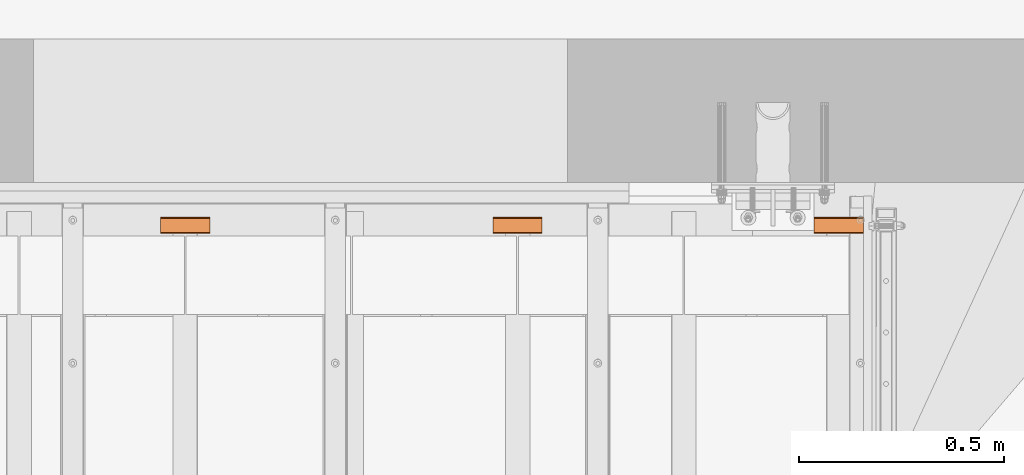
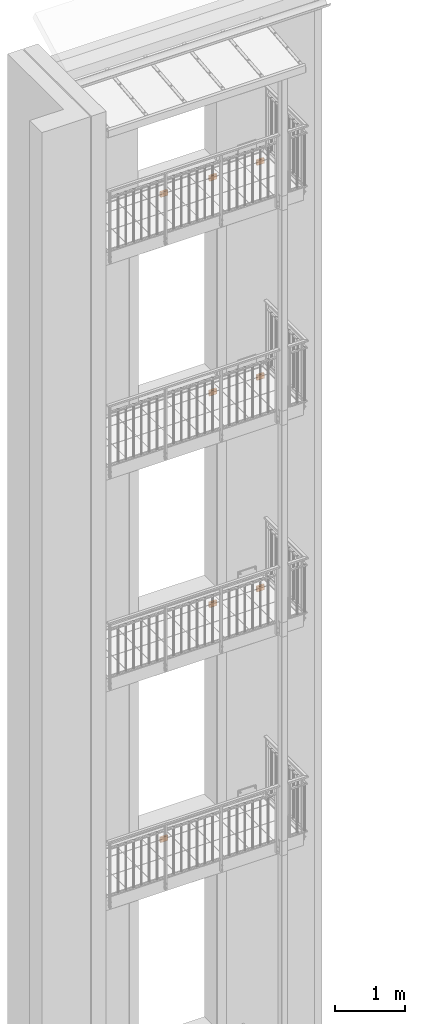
# One storey, part 97 of 162: 8 proxies.
"""IFC2X3 building model written with IfcOpenShell, lengths in millimetres."""

from ifc_helpers import new_model, entity, si_unit, converted_unit, origin_with_axes, place, context, project, spatial, faceted_brep, material, element, save


model = new_model("IFC2X3")

# Units and contexts
model_context = context("Model", 3, precision=1e-09, world=origin_with_axes())
ifc_project = project(units=[si_unit("LENGTHUNIT", "METRE", prefix="MILLI"), si_unit("AREAUNIT", "SQUARE_METRE"), si_unit("VOLUMEUNIT", "CUBIC_METRE"), converted_unit("PLANEANGLEUNIT", "DEGREE", entity("IfcPlaneAngleMeasure", 0.01745329), si_unit("PLANEANGLEUNIT", "RADIAN"), dimensions=[0, 0, 0, 0, 0, 0, 0])], contexts=[model_context])

# Site, building, storey
site_placement = place(None, origin_with_axes())
site = spatial("IfcSite", under=ifc_project, at=site_placement, Name="Hermannstra?e 1a, 60318 Frankfurt", CompositionType="ELEMENT")
building_placement = place(site_placement, origin_with_axes())
building = spatial("IfcBuilding", under=site, at=building_placement, Name="Struktur 1", CompositionType="ELEMENT")
storey_placement = place(building_placement, origin_with_axes())
storey = spatial("IfcBuildingStorey", under=building, at=storey_placement, Name="Default Storey", CompositionType="ELEMENT", Elevation=0.0)

# Proxies
ifc_material = material(Name="Alu")
proxy_1_placement = place(None, origin_with_axes())
element("IfcBuildingElementProxy", 1, at=proxy_1_placement, inside=storey, material=ifc_material, ObjectType="-", context=model_context, shape_type="Brep", body=[
    faceted_brep([(5011.55936482, 2612.413221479, 7558.0), (5011.55936482, 2614.609373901, 7555.803847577), (5011.55936482, 2617.609373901, 7555.0), (5011.55936482, 2645.609373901, 7555.0), (5011.55936482, 2648.609373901, 7555.803847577), (5011.55936482, 2650.805526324, 7558.0), (5011.55936482, 2651.609373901, 7561.0), (5011.55936482, 2651.609373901, 7639.0), (5011.55936482, 2650.805526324, 7642.0), (5011.55936482, 2648.609373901, 7644.196152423), (5011.55936482, 2645.609373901, 7645.0), (5011.55936482, 2617.609373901, 7645.0), (5011.55936482, 2614.609373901, 7644.196152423), (5011.55936482, 2612.413221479, 7642.0), (5011.55936482, 2611.609373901, 7639.0), (5011.55936482, 2611.609373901, 7561.0), (5011.55936482, 2614.609373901, 7561.0), (5011.55936482, 2614.609373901, 7639.0), (5011.55936482, 2615.01129769, 7640.5), (5011.55936482, 2616.109373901, 7641.598076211), (5011.55936482, 2617.609373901, 7642.0), (5011.55936482, 2645.609373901, 7642.0), (5011.55936482, 2647.109373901, 7641.598076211), (5011.55936482, 2648.207450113, 7640.5), (5011.55936482, 2648.609373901, 7639.0), (5011.55936482, 2648.609373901, 7561.0), (5011.55936482, 2648.207450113, 7559.5), (5011.55936482, 2647.109373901, 7558.401923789), (5011.55936482, 2645.609373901, 7558.0), (5011.55936482, 2617.609373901, 7558.0), (5011.55936482, 2616.109373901, 7558.401923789), (5011.55936482, 2615.01129769, 7559.5), (4891.55936482, 2614.609373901, 7561.0), (4891.55936482, 2615.01129769, 7559.5), (4891.55936482, 2611.609373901, 7561.0), (4891.55936482, 2612.413221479, 7558.0), (4891.55936482, 2611.609373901, 7639.0), (4891.55936482, 2612.413221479, 7642.0), (4891.55936482, 2614.609373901, 7644.196152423), (4891.55936482, 2617.609373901, 7645.0), (4891.55936482, 2645.609373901, 7645.0), (4891.55936482, 2648.609373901, 7644.196152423), (4891.55936482, 2650.805526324, 7642.0), (4891.55936482, 2651.609373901, 7639.0), (4891.55936482, 2651.609373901, 7561.0), (4891.55936482, 2650.805526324, 7558.0), (4891.55936482, 2648.609373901, 7555.803847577), (4891.55936482, 2645.609373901, 7555.0), (4891.55936482, 2617.609373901, 7555.0), (4891.55936482, 2614.609373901, 7555.803847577), (4891.55936482, 2614.609373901, 7639.0), (4891.55936482, 2616.109373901, 7558.401923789), (4891.55936482, 2617.609373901, 7558.0), (4891.55936482, 2645.609373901, 7558.0), (4891.55936482, 2647.109373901, 7558.401923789), (4891.55936482, 2648.207450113, 7559.5), (4891.55936482, 2648.609373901, 7561.0), (4891.55936482, 2648.609373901, 7639.0), (4891.55936482, 2648.207450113, 7640.5), (4891.55936482, 2647.109373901, 7641.598076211), (4891.55936482, 2645.609373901, 7642.0), (4891.55936482, 2617.609373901, 7642.0), (4891.55936482, 2616.109373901, 7641.598076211), (4891.55936482, 2615.01129769, 7640.5)], [[[0, 1, 2, 3, 4, 5, 6, 7, 8, 9, 10, 11, 12, 13, 14, 15], [16, 17, 18, 19, 20, 21, 22, 23, 24, 25, 26, 27, 28, 29, 30, 31]], [[32, 16, 31, 33]], [[15, 34, 35, 0]], [[36, 37, 38, 39, 40, 41, 42, 43, 44, 45, 46, 47, 48, 49, 35, 34], [50, 32, 33, 51, 52, 53, 54, 55, 56, 57, 58, 59, 60, 61, 62, 63]], [[17, 16, 32, 50]], [[36, 34, 15, 14]], [[36, 14, 13, 37]], [[33, 31, 30, 51]], [[0, 35, 49, 1]], [[17, 50, 63, 18]], [[37, 13, 12, 38]], [[51, 30, 29, 52]], [[1, 49, 48, 2]], [[18, 63, 62, 19]], [[38, 12, 11, 39]], [[53, 52, 29, 28]], [[3, 2, 48, 47]], [[19, 62, 61, 20]], [[40, 39, 11, 10]], [[21, 20, 61, 60]], [[53, 28, 27, 54]], [[3, 47, 46, 4]], [[40, 10, 9, 41]], [[21, 60, 59, 22]], [[54, 27, 26, 55]], [[4, 46, 45, 5]], [[44, 6, 5, 45]], [[41, 9, 8, 42]], [[22, 59, 58, 23]], [[55, 26, 25, 56]], [[7, 6, 44, 43]], [[57, 24, 23, 58]], [[25, 24, 57, 56]], [[42, 8, 7, 43]]]),
])
proxy_2_placement = place(None, origin_with_axes())
element("IfcBuildingElementProxy", 2, at=proxy_2_placement, inside=storey, material=ifc_material, ObjectType="-", context=model_context, shape_type="Brep", body=[
    faceted_brep([(5793.30936482, 2612.413221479, 7558.0), (5793.30936482, 2614.609373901, 7555.803847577), (5793.30936482, 2617.609373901, 7555.0), (5793.30936482, 2645.609373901, 7555.0), (5793.30936482, 2648.609373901, 7555.803847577), (5793.30936482, 2650.805526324, 7558.0), (5793.30936482, 2651.609373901, 7561.0), (5793.30936482, 2651.609373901, 7639.0), (5793.30936482, 2650.805526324, 7642.0), (5793.30936482, 2648.609373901, 7644.196152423), (5793.30936482, 2645.609373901, 7645.0), (5793.30936482, 2617.609373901, 7645.0), (5793.30936482, 2614.609373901, 7644.196152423), (5793.30936482, 2612.413221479, 7642.0), (5793.30936482, 2611.609373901, 7639.0), (5793.30936482, 2611.609373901, 7561.0), (5793.30936482, 2614.609373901, 7561.0), (5793.30936482, 2614.609373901, 7639.0), (5793.30936482, 2615.01129769, 7640.5), (5793.30936482, 2616.109373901, 7641.598076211), (5793.30936482, 2617.609373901, 7642.0), (5793.30936482, 2645.609373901, 7642.0), (5793.30936482, 2647.109373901, 7641.598076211), (5793.30936482, 2648.207450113, 7640.5), (5793.30936482, 2648.609373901, 7639.0), (5793.30936482, 2648.609373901, 7561.0), (5793.30936482, 2648.207450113, 7559.5), (5793.30936482, 2647.109373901, 7558.401923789), (5793.30936482, 2645.609373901, 7558.0), (5793.30936482, 2617.609373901, 7558.0), (5793.30936482, 2616.109373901, 7558.401923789), (5793.30936482, 2615.01129769, 7559.5), (5673.30936482, 2614.609373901, 7561.0), (5673.30936482, 2615.01129769, 7559.5), (5673.30936482, 2611.609373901, 7561.0), (5673.30936482, 2612.413221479, 7558.0), (5673.30936482, 2611.609373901, 7639.0), (5673.30936482, 2612.413221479, 7642.0), (5673.30936482, 2614.609373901, 7644.196152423), (5673.30936482, 2617.609373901, 7645.0), (5673.30936482, 2645.609373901, 7645.0), (5673.30936482, 2648.609373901, 7644.196152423), (5673.30936482, 2650.805526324, 7642.0), (5673.30936482, 2651.609373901, 7639.0), (5673.30936482, 2651.609373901, 7561.0), (5673.30936482, 2650.805526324, 7558.0), (5673.30936482, 2648.609373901, 7555.803847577), (5673.30936482, 2645.609373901, 7555.0), (5673.30936482, 2617.609373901, 7555.0), (5673.30936482, 2614.609373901, 7555.803847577), (5673.30936482, 2614.609373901, 7639.0), (5673.30936482, 2616.109373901, 7558.401923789), (5673.30936482, 2617.609373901, 7558.0), (5673.30936482, 2645.609373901, 7558.0), (5673.30936482, 2647.109373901, 7558.401923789), (5673.30936482, 2648.207450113, 7559.5), (5673.30936482, 2648.609373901, 7561.0), (5673.30936482, 2648.609373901, 7639.0), (5673.30936482, 2648.207450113, 7640.5), (5673.30936482, 2647.109373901, 7641.598076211), (5673.30936482, 2645.609373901, 7642.0), (5673.30936482, 2617.609373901, 7642.0), (5673.30936482, 2616.109373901, 7641.598076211), (5673.30936482, 2615.01129769, 7640.5)], [[[0, 1, 2, 3, 4, 5, 6, 7, 8, 9, 10, 11, 12, 13, 14, 15], [16, 17, 18, 19, 20, 21, 22, 23, 24, 25, 26, 27, 28, 29, 30, 31]], [[32, 16, 31, 33]], [[15, 34, 35, 0]], [[36, 37, 38, 39, 40, 41, 42, 43, 44, 45, 46, 47, 48, 49, 35, 34], [50, 32, 33, 51, 52, 53, 54, 55, 56, 57, 58, 59, 60, 61, 62, 63]], [[17, 16, 32, 50]], [[36, 34, 15, 14]], [[36, 14, 13, 37]], [[33, 31, 30, 51]], [[0, 35, 49, 1]], [[17, 50, 63, 18]], [[37, 13, 12, 38]], [[51, 30, 29, 52]], [[1, 49, 48, 2]], [[18, 63, 62, 19]], [[38, 12, 11, 39]], [[53, 52, 29, 28]], [[3, 2, 48, 47]], [[19, 62, 61, 20]], [[40, 39, 11, 10]], [[21, 20, 61, 60]], [[53, 28, 27, 54]], [[3, 47, 46, 4]], [[40, 10, 9, 41]], [[21, 60, 59, 22]], [[54, 27, 26, 55]], [[4, 46, 45, 5]], [[44, 6, 5, 45]], [[41, 9, 8, 42]], [[22, 59, 58, 23]], [[55, 26, 25, 56]], [[7, 6, 44, 43]], [[57, 24, 23, 58]], [[25, 24, 57, 56]], [[42, 8, 7, 43]]]),
])
proxy_3_placement = place(None, origin_with_axes())
element("IfcBuildingElementProxy", 3, at=proxy_3_placement, inside=storey, material=ifc_material, ObjectType="-", context=model_context, shape_type="Brep", body=[
    faceted_brep([(5011.55936482, 2612.413221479, 11257.999), (5011.55936482, 2614.609373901, 11255.802847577), (5011.55936482, 2617.609373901, 11254.999), (5011.55936482, 2645.609373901, 11254.999), (5011.55936482, 2648.609373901, 11255.802847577), (5011.55936482, 2650.805526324, 11257.999), (5011.55936482, 2651.609373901, 11260.999), (5011.55936482, 2651.609373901, 11338.999), (5011.55936482, 2650.805526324, 11341.999), (5011.55936482, 2648.609373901, 11344.195152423), (5011.55936482, 2645.609373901, 11344.999), (5011.55936482, 2617.609373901, 11344.999), (5011.55936482, 2614.609373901, 11344.195152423), (5011.55936482, 2612.413221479, 11341.999), (5011.55936482, 2611.609373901, 11338.999), (5011.55936482, 2611.609373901, 11260.999), (5011.55936482, 2614.609373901, 11260.999), (5011.55936482, 2614.609373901, 11338.999), (5011.55936482, 2615.01129769, 11340.499), (5011.55936482, 2616.109373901, 11341.597076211), (5011.55936482, 2617.609373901, 11341.999), (5011.55936482, 2645.609373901, 11341.999), (5011.55936482, 2647.109373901, 11341.597076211), (5011.55936482, 2648.207450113, 11340.499), (5011.55936482, 2648.609373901, 11338.999), (5011.55936482, 2648.609373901, 11260.999), (5011.55936482, 2648.207450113, 11259.499), (5011.55936482, 2647.109373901, 11258.400923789), (5011.55936482, 2645.609373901, 11257.999), (5011.55936482, 2617.609373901, 11257.999), (5011.55936482, 2616.109373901, 11258.400923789), (5011.55936482, 2615.01129769, 11259.499), (4891.55936482, 2614.609373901, 11260.999), (4891.55936482, 2615.01129769, 11259.499), (4891.55936482, 2611.609373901, 11260.999), (4891.55936482, 2612.413221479, 11257.999), (4891.55936482, 2611.609373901, 11338.999), (4891.55936482, 2612.413221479, 11341.999), (4891.55936482, 2614.609373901, 11344.195152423), (4891.55936482, 2617.609373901, 11344.999), (4891.55936482, 2645.609373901, 11344.999), (4891.55936482, 2648.609373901, 11344.195152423), (4891.55936482, 2650.805526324, 11341.999), (4891.55936482, 2651.609373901, 11338.999), (4891.55936482, 2651.609373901, 11260.999), (4891.55936482, 2650.805526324, 11257.999), (4891.55936482, 2648.609373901, 11255.802847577), (4891.55936482, 2645.609373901, 11254.999), (4891.55936482, 2617.609373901, 11254.999), (4891.55936482, 2614.609373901, 11255.802847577), (4891.55936482, 2614.609373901, 11338.999), (4891.55936482, 2616.109373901, 11258.400923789), (4891.55936482, 2617.609373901, 11257.999), (4891.55936482, 2645.609373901, 11257.999), (4891.55936482, 2647.109373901, 11258.400923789), (4891.55936482, 2648.207450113, 11259.499), (4891.55936482, 2648.609373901, 11260.999), (4891.55936482, 2648.609373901, 11338.999), (4891.55936482, 2648.207450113, 11340.499), (4891.55936482, 2647.109373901, 11341.597076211), (4891.55936482, 2645.609373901, 11341.999), (4891.55936482, 2617.609373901, 11341.999), (4891.55936482, 2616.109373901, 11341.597076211), (4891.55936482, 2615.01129769, 11340.499)], [[[0, 1, 2, 3, 4, 5, 6, 7, 8, 9, 10, 11, 12, 13, 14, 15], [16, 17, 18, 19, 20, 21, 22, 23, 24, 25, 26, 27, 28, 29, 30, 31]], [[32, 16, 31, 33]], [[15, 34, 35, 0]], [[36, 37, 38, 39, 40, 41, 42, 43, 44, 45, 46, 47, 48, 49, 35, 34], [50, 32, 33, 51, 52, 53, 54, 55, 56, 57, 58, 59, 60, 61, 62, 63]], [[17, 16, 32, 50]], [[36, 34, 15, 14]], [[36, 14, 13, 37]], [[33, 31, 30, 51]], [[0, 35, 49, 1]], [[17, 50, 63, 18]], [[37, 13, 12, 38]], [[51, 30, 29, 52]], [[1, 49, 48, 2]], [[18, 63, 62, 19]], [[38, 12, 11, 39]], [[53, 52, 29, 28]], [[3, 2, 48, 47]], [[19, 62, 61, 20]], [[40, 39, 11, 10]], [[21, 20, 61, 60]], [[53, 28, 27, 54]], [[3, 47, 46, 4]], [[40, 10, 9, 41]], [[21, 60, 59, 22]], [[54, 27, 26, 55]], [[4, 46, 45, 5]], [[44, 6, 5, 45]], [[41, 9, 8, 42]], [[22, 59, 58, 23]], [[55, 26, 25, 56]], [[7, 6, 44, 43]], [[57, 24, 23, 58]], [[25, 24, 57, 56]], [[42, 8, 7, 43]]]),
])
proxy_4_placement = place(None, origin_with_axes())
element("IfcBuildingElementProxy", 4, at=proxy_4_placement, inside=storey, material=ifc_material, ObjectType="-", context=model_context, shape_type="Brep", body=[
    faceted_brep([(5793.30936482, 2612.413221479, 11257.999), (5793.30936482, 2614.609373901, 11255.802847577), (5793.30936482, 2617.609373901, 11254.999), (5793.30936482, 2645.609373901, 11254.999), (5793.30936482, 2648.609373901, 11255.802847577), (5793.30936482, 2650.805526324, 11257.999), (5793.30936482, 2651.609373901, 11260.999), (5793.30936482, 2651.609373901, 11338.999), (5793.30936482, 2650.805526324, 11341.999), (5793.30936482, 2648.609373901, 11344.195152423), (5793.30936482, 2645.609373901, 11344.999), (5793.30936482, 2617.609373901, 11344.999), (5793.30936482, 2614.609373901, 11344.195152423), (5793.30936482, 2612.413221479, 11341.999), (5793.30936482, 2611.609373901, 11338.999), (5793.30936482, 2611.609373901, 11260.999), (5793.30936482, 2614.609373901, 11260.999), (5793.30936482, 2614.609373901, 11338.999), (5793.30936482, 2615.01129769, 11340.499), (5793.30936482, 2616.109373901, 11341.597076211), (5793.30936482, 2617.609373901, 11341.999), (5793.30936482, 2645.609373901, 11341.999), (5793.30936482, 2647.109373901, 11341.597076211), (5793.30936482, 2648.207450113, 11340.499), (5793.30936482, 2648.609373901, 11338.999), (5793.30936482, 2648.609373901, 11260.999), (5793.30936482, 2648.207450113, 11259.499), (5793.30936482, 2647.109373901, 11258.400923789), (5793.30936482, 2645.609373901, 11257.999), (5793.30936482, 2617.609373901, 11257.999), (5793.30936482, 2616.109373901, 11258.400923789), (5793.30936482, 2615.01129769, 11259.499), (5673.30936482, 2614.609373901, 11260.999), (5673.30936482, 2615.01129769, 11259.499), (5673.30936482, 2611.609373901, 11260.999), (5673.30936482, 2612.413221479, 11257.999), (5673.30936482, 2611.609373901, 11338.999), (5673.30936482, 2612.413221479, 11341.999), (5673.30936482, 2614.609373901, 11344.195152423), (5673.30936482, 2617.609373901, 11344.999), (5673.30936482, 2645.609373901, 11344.999), (5673.30936482, 2648.609373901, 11344.195152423), (5673.30936482, 2650.805526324, 11341.999), (5673.30936482, 2651.609373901, 11338.999), (5673.30936482, 2651.609373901, 11260.999), (5673.30936482, 2650.805526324, 11257.999), (5673.30936482, 2648.609373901, 11255.802847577), (5673.30936482, 2645.609373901, 11254.999), (5673.30936482, 2617.609373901, 11254.999), (5673.30936482, 2614.609373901, 11255.802847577), (5673.30936482, 2614.609373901, 11338.999), (5673.30936482, 2616.109373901, 11258.400923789), (5673.30936482, 2617.609373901, 11257.999), (5673.30936482, 2645.609373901, 11257.999), (5673.30936482, 2647.109373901, 11258.400923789), (5673.30936482, 2648.207450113, 11259.499), (5673.30936482, 2648.609373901, 11260.999), (5673.30936482, 2648.609373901, 11338.999), (5673.30936482, 2648.207450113, 11340.499), (5673.30936482, 2647.109373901, 11341.597076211), (5673.30936482, 2645.609373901, 11341.999), (5673.30936482, 2617.609373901, 11341.999), (5673.30936482, 2616.109373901, 11341.597076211), (5673.30936482, 2615.01129769, 11340.499)], [[[0, 1, 2, 3, 4, 5, 6, 7, 8, 9, 10, 11, 12, 13, 14, 15], [16, 17, 18, 19, 20, 21, 22, 23, 24, 25, 26, 27, 28, 29, 30, 31]], [[32, 16, 31, 33]], [[15, 34, 35, 0]], [[36, 37, 38, 39, 40, 41, 42, 43, 44, 45, 46, 47, 48, 49, 35, 34], [50, 32, 33, 51, 52, 53, 54, 55, 56, 57, 58, 59, 60, 61, 62, 63]], [[17, 16, 32, 50]], [[36, 34, 15, 14]], [[36, 14, 13, 37]], [[33, 31, 30, 51]], [[0, 35, 49, 1]], [[17, 50, 63, 18]], [[37, 13, 12, 38]], [[51, 30, 29, 52]], [[1, 49, 48, 2]], [[18, 63, 62, 19]], [[38, 12, 11, 39]], [[53, 52, 29, 28]], [[3, 2, 48, 47]], [[19, 62, 61, 20]], [[40, 39, 11, 10]], [[21, 20, 61, 60]], [[53, 28, 27, 54]], [[3, 47, 46, 4]], [[40, 10, 9, 41]], [[21, 60, 59, 22]], [[54, 27, 26, 55]], [[4, 46, 45, 5]], [[44, 6, 5, 45]], [[41, 9, 8, 42]], [[22, 59, 58, 23]], [[55, 26, 25, 56]], [[7, 6, 44, 43]], [[57, 24, 23, 58]], [[25, 24, 57, 56]], [[42, 8, 7, 43]]]),
])
proxy_5_placement = place(None, origin_with_axes())
element("IfcBuildingElementProxy", 5, at=proxy_5_placement, inside=storey, material=ifc_material, ObjectType="-", context=model_context, shape_type="Brep", body=[
    faceted_brep([(4202.55936482, 2612.413221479, 15014.999), (4202.55936482, 2614.609373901, 15012.802847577), (4202.55936482, 2617.609373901, 15011.999), (4202.55936482, 2645.609373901, 15011.999), (4202.55936482, 2648.609373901, 15012.802847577), (4202.55936482, 2650.805526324, 15014.999), (4202.55936482, 2651.609373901, 15017.999), (4202.55936482, 2651.609373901, 15095.999), (4202.55936482, 2650.805526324, 15098.999), (4202.55936482, 2648.609373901, 15101.195152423), (4202.55936482, 2645.609373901, 15101.999), (4202.55936482, 2617.609373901, 15101.999), (4202.55936482, 2614.609373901, 15101.195152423), (4202.55936482, 2612.413221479, 15098.999), (4202.55936482, 2611.609373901, 15095.999), (4202.55936482, 2611.609373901, 15017.999), (4202.55936482, 2614.609373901, 15017.999), (4202.55936482, 2614.609373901, 15095.999), (4202.55936482, 2615.01129769, 15097.499), (4202.55936482, 2616.109373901, 15098.597076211), (4202.55936482, 2617.609373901, 15098.999), (4202.55936482, 2645.609373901, 15098.999), (4202.55936482, 2647.109373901, 15098.597076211), (4202.55936482, 2648.207450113, 15097.499), (4202.55936482, 2648.609373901, 15095.999), (4202.55936482, 2648.609373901, 15017.999), (4202.55936482, 2648.207450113, 15016.499), (4202.55936482, 2647.109373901, 15015.400923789), (4202.55936482, 2645.609373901, 15014.999), (4202.55936482, 2617.609373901, 15014.999), (4202.55936482, 2616.109373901, 15015.400923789), (4202.55936482, 2615.01129769, 15016.499), (4082.55936482, 2614.609373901, 15017.999), (4082.55936482, 2615.01129769, 15016.499), (4082.55936482, 2611.609373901, 15017.999), (4082.55936482, 2612.413221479, 15014.999), (4082.55936482, 2611.609373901, 15095.999), (4082.55936482, 2612.413221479, 15098.999), (4082.55936482, 2614.609373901, 15101.195152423), (4082.55936482, 2617.609373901, 15101.999), (4082.55936482, 2645.609373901, 15101.999), (4082.55936482, 2648.609373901, 15101.195152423), (4082.55936482, 2650.805526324, 15098.999), (4082.55936482, 2651.609373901, 15095.999), (4082.55936482, 2651.609373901, 15017.999), (4082.55936482, 2650.805526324, 15014.999), (4082.55936482, 2648.609373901, 15012.802847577), (4082.55936482, 2645.609373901, 15011.999), (4082.55936482, 2617.609373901, 15011.999), (4082.55936482, 2614.609373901, 15012.802847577), (4082.55936482, 2614.609373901, 15095.999), (4082.55936482, 2616.109373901, 15015.400923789), (4082.55936482, 2617.609373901, 15014.999), (4082.55936482, 2645.609373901, 15014.999), (4082.55936482, 2647.109373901, 15015.400923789), (4082.55936482, 2648.207450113, 15016.499), (4082.55936482, 2648.609373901, 15017.999), (4082.55936482, 2648.609373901, 15095.999), (4082.55936482, 2648.207450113, 15097.499), (4082.55936482, 2647.109373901, 15098.597076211), (4082.55936482, 2645.609373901, 15098.999), (4082.55936482, 2617.609373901, 15098.999), (4082.55936482, 2616.109373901, 15098.597076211), (4082.55936482, 2615.01129769, 15097.499)], [[[0, 1, 2, 3, 4, 5, 6, 7, 8, 9, 10, 11, 12, 13, 14, 15], [16, 17, 18, 19, 20, 21, 22, 23, 24, 25, 26, 27, 28, 29, 30, 31]], [[32, 16, 31, 33]], [[15, 34, 35, 0]], [[36, 37, 38, 39, 40, 41, 42, 43, 44, 45, 46, 47, 48, 49, 35, 34], [50, 32, 33, 51, 52, 53, 54, 55, 56, 57, 58, 59, 60, 61, 62, 63]], [[17, 16, 32, 50]], [[36, 34, 15, 14]], [[36, 14, 13, 37]], [[33, 31, 30, 51]], [[0, 35, 49, 1]], [[17, 50, 63, 18]], [[37, 13, 12, 38]], [[51, 30, 29, 52]], [[1, 49, 48, 2]], [[18, 63, 62, 19]], [[38, 12, 11, 39]], [[53, 52, 29, 28]], [[3, 2, 48, 47]], [[19, 62, 61, 20]], [[40, 39, 11, 10]], [[21, 20, 61, 60]], [[53, 28, 27, 54]], [[3, 47, 46, 4]], [[40, 10, 9, 41]], [[21, 60, 59, 22]], [[54, 27, 26, 55]], [[4, 46, 45, 5]], [[44, 6, 5, 45]], [[41, 9, 8, 42]], [[22, 59, 58, 23]], [[55, 26, 25, 56]], [[7, 6, 44, 43]], [[57, 24, 23, 58]], [[25, 24, 57, 56]], [[42, 8, 7, 43]]]),
])
proxy_6_placement = place(None, origin_with_axes())
element("IfcBuildingElementProxy", 6, at=proxy_6_placement, inside=storey, material=ifc_material, ObjectType="-", context=model_context, shape_type="Brep", body=[
    faceted_brep([(5011.55936482, 2612.413221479, 15014.999), (5011.55936482, 2614.609373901, 15012.802847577), (5011.55936482, 2617.609373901, 15011.999), (5011.55936482, 2645.609373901, 15011.999), (5011.55936482, 2648.609373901, 15012.802847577), (5011.55936482, 2650.805526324, 15014.999), (5011.55936482, 2651.609373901, 15017.999), (5011.55936482, 2651.609373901, 15095.999), (5011.55936482, 2650.805526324, 15098.999), (5011.55936482, 2648.609373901, 15101.195152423), (5011.55936482, 2645.609373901, 15101.999), (5011.55936482, 2617.609373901, 15101.999), (5011.55936482, 2614.609373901, 15101.195152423), (5011.55936482, 2612.413221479, 15098.999), (5011.55936482, 2611.609373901, 15095.999), (5011.55936482, 2611.609373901, 15017.999), (5011.55936482, 2614.609373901, 15017.999), (5011.55936482, 2614.609373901, 15095.999), (5011.55936482, 2615.01129769, 15097.499), (5011.55936482, 2616.109373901, 15098.597076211), (5011.55936482, 2617.609373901, 15098.999), (5011.55936482, 2645.609373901, 15098.999), (5011.55936482, 2647.109373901, 15098.597076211), (5011.55936482, 2648.207450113, 15097.499), (5011.55936482, 2648.609373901, 15095.999), (5011.55936482, 2648.609373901, 15017.999), (5011.55936482, 2648.207450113, 15016.499), (5011.55936482, 2647.109373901, 15015.400923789), (5011.55936482, 2645.609373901, 15014.999), (5011.55936482, 2617.609373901, 15014.999), (5011.55936482, 2616.109373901, 15015.400923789), (5011.55936482, 2615.01129769, 15016.499), (4891.55936482, 2614.609373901, 15017.999), (4891.55936482, 2615.01129769, 15016.499), (4891.55936482, 2611.609373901, 15017.999), (4891.55936482, 2612.413221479, 15014.999), (4891.55936482, 2611.609373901, 15095.999), (4891.55936482, 2612.413221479, 15098.999), (4891.55936482, 2614.609373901, 15101.195152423), (4891.55936482, 2617.609373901, 15101.999), (4891.55936482, 2645.609373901, 15101.999), (4891.55936482, 2648.609373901, 15101.195152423), (4891.55936482, 2650.805526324, 15098.999), (4891.55936482, 2651.609373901, 15095.999), (4891.55936482, 2651.609373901, 15017.999), (4891.55936482, 2650.805526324, 15014.999), (4891.55936482, 2648.609373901, 15012.802847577), (4891.55936482, 2645.609373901, 15011.999), (4891.55936482, 2617.609373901, 15011.999), (4891.55936482, 2614.609373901, 15012.802847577), (4891.55936482, 2614.609373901, 15095.999), (4891.55936482, 2616.109373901, 15015.400923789), (4891.55936482, 2617.609373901, 15014.999), (4891.55936482, 2645.609373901, 15014.999), (4891.55936482, 2647.109373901, 15015.400923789), (4891.55936482, 2648.207450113, 15016.499), (4891.55936482, 2648.609373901, 15017.999), (4891.55936482, 2648.609373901, 15095.999), (4891.55936482, 2648.207450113, 15097.499), (4891.55936482, 2647.109373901, 15098.597076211), (4891.55936482, 2645.609373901, 15098.999), (4891.55936482, 2617.609373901, 15098.999), (4891.55936482, 2616.109373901, 15098.597076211), (4891.55936482, 2615.01129769, 15097.499)], [[[0, 1, 2, 3, 4, 5, 6, 7, 8, 9, 10, 11, 12, 13, 14, 15], [16, 17, 18, 19, 20, 21, 22, 23, 24, 25, 26, 27, 28, 29, 30, 31]], [[32, 16, 31, 33]], [[15, 34, 35, 0]], [[36, 37, 38, 39, 40, 41, 42, 43, 44, 45, 46, 47, 48, 49, 35, 34], [50, 32, 33, 51, 52, 53, 54, 55, 56, 57, 58, 59, 60, 61, 62, 63]], [[17, 16, 32, 50]], [[36, 34, 15, 14]], [[36, 14, 13, 37]], [[33, 31, 30, 51]], [[0, 35, 49, 1]], [[17, 50, 63, 18]], [[37, 13, 12, 38]], [[51, 30, 29, 52]], [[1, 49, 48, 2]], [[18, 63, 62, 19]], [[38, 12, 11, 39]], [[53, 52, 29, 28]], [[3, 2, 48, 47]], [[19, 62, 61, 20]], [[40, 39, 11, 10]], [[21, 20, 61, 60]], [[53, 28, 27, 54]], [[3, 47, 46, 4]], [[40, 10, 9, 41]], [[21, 60, 59, 22]], [[54, 27, 26, 55]], [[4, 46, 45, 5]], [[44, 6, 5, 45]], [[41, 9, 8, 42]], [[22, 59, 58, 23]], [[55, 26, 25, 56]], [[7, 6, 44, 43]], [[57, 24, 23, 58]], [[25, 24, 57, 56]], [[42, 8, 7, 43]]]),
])
proxy_7_placement = place(None, origin_with_axes())
element("IfcBuildingElementProxy", 7, at=proxy_7_placement, inside=storey, material=ifc_material, ObjectType="-", context=model_context, shape_type="Brep", body=[
    faceted_brep([(5793.30936482, 2612.413221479, 15014.999), (5793.30936482, 2614.609373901, 15012.802847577), (5793.30936482, 2617.609373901, 15011.999), (5793.30936482, 2645.609373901, 15011.999), (5793.30936482, 2648.609373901, 15012.802847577), (5793.30936482, 2650.805526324, 15014.999), (5793.30936482, 2651.609373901, 15017.999), (5793.30936482, 2651.609373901, 15095.999), (5793.30936482, 2650.805526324, 15098.999), (5793.30936482, 2648.609373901, 15101.195152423), (5793.30936482, 2645.609373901, 15101.999), (5793.30936482, 2617.609373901, 15101.999), (5793.30936482, 2614.609373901, 15101.195152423), (5793.30936482, 2612.413221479, 15098.999), (5793.30936482, 2611.609373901, 15095.999), (5793.30936482, 2611.609373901, 15017.999), (5793.30936482, 2614.609373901, 15017.999), (5793.30936482, 2614.609373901, 15095.999), (5793.30936482, 2615.01129769, 15097.499), (5793.30936482, 2616.109373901, 15098.597076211), (5793.30936482, 2617.609373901, 15098.999), (5793.30936482, 2645.609373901, 15098.999), (5793.30936482, 2647.109373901, 15098.597076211), (5793.30936482, 2648.207450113, 15097.499), (5793.30936482, 2648.609373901, 15095.999), (5793.30936482, 2648.609373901, 15017.999), (5793.30936482, 2648.207450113, 15016.499), (5793.30936482, 2647.109373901, 15015.400923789), (5793.30936482, 2645.609373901, 15014.999), (5793.30936482, 2617.609373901, 15014.999), (5793.30936482, 2616.109373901, 15015.400923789), (5793.30936482, 2615.01129769, 15016.499), (5673.30936482, 2614.609373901, 15017.999), (5673.30936482, 2615.01129769, 15016.499), (5673.30936482, 2611.609373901, 15017.999), (5673.30936482, 2612.413221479, 15014.999), (5673.30936482, 2611.609373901, 15095.999), (5673.30936482, 2612.413221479, 15098.999), (5673.30936482, 2614.609373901, 15101.195152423), (5673.30936482, 2617.609373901, 15101.999), (5673.30936482, 2645.609373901, 15101.999), (5673.30936482, 2648.609373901, 15101.195152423), (5673.30936482, 2650.805526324, 15098.999), (5673.30936482, 2651.609373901, 15095.999), (5673.30936482, 2651.609373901, 15017.999), (5673.30936482, 2650.805526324, 15014.999), (5673.30936482, 2648.609373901, 15012.802847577), (5673.30936482, 2645.609373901, 15011.999), (5673.30936482, 2617.609373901, 15011.999), (5673.30936482, 2614.609373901, 15012.802847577), (5673.30936482, 2614.609373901, 15095.999), (5673.30936482, 2616.109373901, 15015.400923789), (5673.30936482, 2617.609373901, 15014.999), (5673.30936482, 2645.609373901, 15014.999), (5673.30936482, 2647.109373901, 15015.400923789), (5673.30936482, 2648.207450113, 15016.499), (5673.30936482, 2648.609373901, 15017.999), (5673.30936482, 2648.609373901, 15095.999), (5673.30936482, 2648.207450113, 15097.499), (5673.30936482, 2647.109373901, 15098.597076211), (5673.30936482, 2645.609373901, 15098.999), (5673.30936482, 2617.609373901, 15098.999), (5673.30936482, 2616.109373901, 15098.597076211), (5673.30936482, 2615.01129769, 15097.499)], [[[0, 1, 2, 3, 4, 5, 6, 7, 8, 9, 10, 11, 12, 13, 14, 15], [16, 17, 18, 19, 20, 21, 22, 23, 24, 25, 26, 27, 28, 29, 30, 31]], [[32, 16, 31, 33]], [[15, 34, 35, 0]], [[36, 37, 38, 39, 40, 41, 42, 43, 44, 45, 46, 47, 48, 49, 35, 34], [50, 32, 33, 51, 52, 53, 54, 55, 56, 57, 58, 59, 60, 61, 62, 63]], [[17, 16, 32, 50]], [[36, 34, 15, 14]], [[36, 14, 13, 37]], [[33, 31, 30, 51]], [[0, 35, 49, 1]], [[17, 50, 63, 18]], [[37, 13, 12, 38]], [[51, 30, 29, 52]], [[1, 49, 48, 2]], [[18, 63, 62, 19]], [[38, 12, 11, 39]], [[53, 52, 29, 28]], [[3, 2, 48, 47]], [[19, 62, 61, 20]], [[40, 39, 11, 10]], [[21, 20, 61, 60]], [[53, 28, 27, 54]], [[3, 47, 46, 4]], [[40, 10, 9, 41]], [[21, 60, 59, 22]], [[54, 27, 26, 55]], [[4, 46, 45, 5]], [[44, 6, 5, 45]], [[41, 9, 8, 42]], [[22, 59, 58, 23]], [[55, 26, 25, 56]], [[7, 6, 44, 43]], [[57, 24, 23, 58]], [[25, 24, 57, 56]], [[42, 8, 7, 43]]]),
])
proxy_8_placement = place(None, origin_with_axes())
element("IfcBuildingElementProxy", 8, at=proxy_8_placement, inside=storey, material=ifc_material, ObjectType="-", context=model_context, shape_type="Brep", body=[
    faceted_brep([(4202.55936482, 2612.413221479, 3733.0), (4202.55936482, 2614.609373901, 3730.803847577), (4202.55936482, 2617.609373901, 3730.0), (4202.55936482, 2645.609373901, 3730.0), (4202.55936482, 2648.609373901, 3730.803847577), (4202.55936482, 2650.805526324, 3733.0), (4202.55936482, 2651.609373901, 3736.0), (4202.55936482, 2651.609373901, 3814.0), (4202.55936482, 2650.805526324, 3817.0), (4202.55936482, 2648.609373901, 3819.196152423), (4202.55936482, 2645.609373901, 3820.0), (4202.55936482, 2617.609373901, 3820.0), (4202.55936482, 2614.609373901, 3819.196152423), (4202.55936482, 2612.413221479, 3817.0), (4202.55936482, 2611.609373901, 3814.0), (4202.55936482, 2611.609373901, 3736.0), (4202.55936482, 2614.609373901, 3736.0), (4202.55936482, 2614.609373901, 3814.0), (4202.55936482, 2615.01129769, 3815.5), (4202.55936482, 2616.109373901, 3816.598076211), (4202.55936482, 2617.609373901, 3817.0), (4202.55936482, 2645.609373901, 3817.0), (4202.55936482, 2647.109373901, 3816.598076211), (4202.55936482, 2648.207450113, 3815.5), (4202.55936482, 2648.609373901, 3814.0), (4202.55936482, 2648.609373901, 3736.0), (4202.55936482, 2648.207450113, 3734.5), (4202.55936482, 2647.109373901, 3733.401923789), (4202.55936482, 2645.609373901, 3733.0), (4202.55936482, 2617.609373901, 3733.0), (4202.55936482, 2616.109373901, 3733.401923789), (4202.55936482, 2615.01129769, 3734.5), (4082.55936482, 2614.609373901, 3736.0), (4082.55936482, 2615.01129769, 3734.5), (4082.55936482, 2611.609373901, 3736.0), (4082.55936482, 2612.413221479, 3733.0), (4082.55936482, 2611.609373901, 3814.0), (4082.55936482, 2612.413221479, 3817.0), (4082.55936482, 2614.609373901, 3819.196152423), (4082.55936482, 2617.609373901, 3820.0), (4082.55936482, 2645.609373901, 3820.0), (4082.55936482, 2648.609373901, 3819.196152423), (4082.55936482, 2650.805526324, 3817.0), (4082.55936482, 2651.609373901, 3814.0), (4082.55936482, 2651.609373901, 3736.0), (4082.55936482, 2650.805526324, 3733.0), (4082.55936482, 2648.609373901, 3730.803847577), (4082.55936482, 2645.609373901, 3730.0), (4082.55936482, 2617.609373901, 3730.0), (4082.55936482, 2614.609373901, 3730.803847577), (4082.55936482, 2614.609373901, 3814.0), (4082.55936482, 2616.109373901, 3733.401923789), (4082.55936482, 2617.609373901, 3733.0), (4082.55936482, 2645.609373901, 3733.0), (4082.55936482, 2647.109373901, 3733.401923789), (4082.55936482, 2648.207450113, 3734.5), (4082.55936482, 2648.609373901, 3736.0), (4082.55936482, 2648.609373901, 3814.0), (4082.55936482, 2648.207450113, 3815.5), (4082.55936482, 2647.109373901, 3816.598076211), (4082.55936482, 2645.609373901, 3817.0), (4082.55936482, 2617.609373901, 3817.0), (4082.55936482, 2616.109373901, 3816.598076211), (4082.55936482, 2615.01129769, 3815.5)], [[[0, 1, 2, 3, 4, 5, 6, 7, 8, 9, 10, 11, 12, 13, 14, 15], [16, 17, 18, 19, 20, 21, 22, 23, 24, 25, 26, 27, 28, 29, 30, 31]], [[32, 16, 31, 33]], [[15, 34, 35, 0]], [[36, 37, 38, 39, 40, 41, 42, 43, 44, 45, 46, 47, 48, 49, 35, 34], [50, 32, 33, 51, 52, 53, 54, 55, 56, 57, 58, 59, 60, 61, 62, 63]], [[17, 16, 32, 50]], [[36, 34, 15, 14]], [[36, 14, 13, 37]], [[33, 31, 30, 51]], [[0, 35, 49, 1]], [[17, 50, 63, 18]], [[37, 13, 12, 38]], [[51, 30, 29, 52]], [[1, 49, 48, 2]], [[18, 63, 62, 19]], [[38, 12, 11, 39]], [[53, 52, 29, 28]], [[3, 2, 48, 47]], [[19, 62, 61, 20]], [[40, 39, 11, 10]], [[21, 20, 61, 60]], [[53, 28, 27, 54]], [[3, 47, 46, 4]], [[40, 10, 9, 41]], [[21, 60, 59, 22]], [[54, 27, 26, 55]], [[4, 46, 45, 5]], [[44, 6, 5, 45]], [[41, 9, 8, 42]], [[22, 59, 58, 23]], [[55, 26, 25, 56]], [[7, 6, 44, 43]], [[57, 24, 23, 58]], [[25, 24, 57, 56]], [[42, 8, 7, 43]]]),
])

save(model, "model.ifc")
